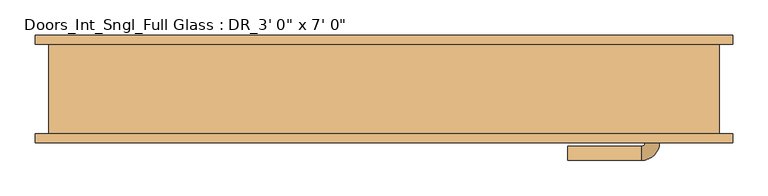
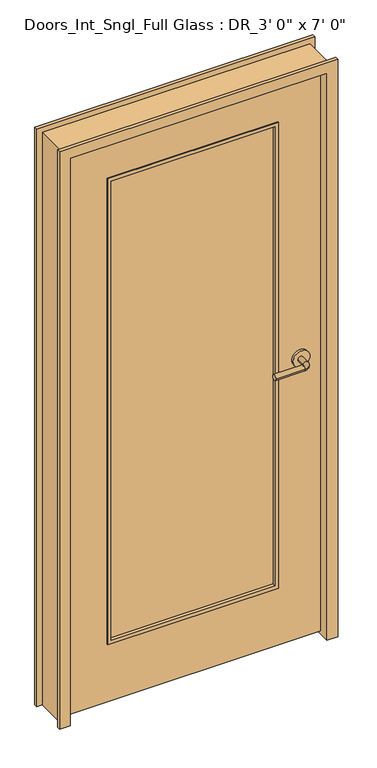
"""IFC4 building model written with IfcOpenShell, lengths in millimetres: door geometry."""

import ifcopenshell
import ifcopenshell.guid

model = None  # the IFC model being written
_history = None  # IfcOwnerHistory: only IFC2X3 demands one
_inside = {}  # id of a spatial element -> (the spatial element, [elements in it])
_under = {}  # id of a project, library or spatial element -> (it, [spatial elements below it])
_declared = {}  # id of a project -> (the project, [libraries it declares])
_typed = {}  # id of a type object -> (the type object, [elements of that type])
_made_of = {}  # id of a material, layer set ... -> (it, [elements and type objects made of it])


def new_model(schema):
    """Start an empty IFC model of exactly this schema.

    Asked for "IFC4X3", IfcOpenShell would pick the latest addendum, in which some entities
    have other attributes; the version numbers below select the first issue.
    IFC2X3 requires an IfcOwnerHistory on every rooted entity: one is made here for all.
    """
    global model, _history
    if schema == "IFC4X3":
        model = ifcopenshell.file(schema_version=(4, 3, 0, 0))
    else:
        model = ifcopenshell.file(schema=schema)
    _inside.clear()
    _under.clear()
    _declared.clear()
    _typed.clear()
    _made_of.clear()
    _history = None
    if model.schema == "IFC2X3":
        org = make("IfcOrganization", Name="unknown")
        user = make(
            "IfcPersonAndOrganization",
            ThePerson=make("IfcPerson", FamilyName="unknown"),
            TheOrganization=org,
        )
        app = make(
            "IfcApplication",
            ApplicationDeveloper=org,
            Version="unknown",
            ApplicationFullName="unknown",
            ApplicationIdentifier="unknown",
        )
        _history = make(
            "IfcOwnerHistory",
            OwningUser=user,
            OwningApplication=app,
            ChangeAction="ADDED",
            CreationDate=0,
        )
    return model


def make(cls, **values):
    """One entity of the class cls with the attributes given. An attribute that is None is left unset."""
    return model.create_entity(
        cls, **{name: value for name, value in values.items() if value is not None}
    )


def rooted(cls, **values):
    """An entity with a GlobalId (a new one), such as an element, a storey or a relation."""
    return make(cls, GlobalId=ifcopenshell.guid.new(), OwnerHistory=_history, **values)


def si_unit(unit_type, name, prefix=None):
    """IfcSIUnit, for example si_unit("LENGTHUNIT", "METRE", prefix="MILLI")."""
    return make("IfcSIUnit", UnitType=unit_type, Prefix=prefix, Name=name)


def assignment(units):
    """IfcUnitAssignment: the units of a project."""
    return None if units is None else make("IfcUnitAssignment", Units=units)


def point(xyz):
    """IfcCartesianPoint."""
    return None if xyz is None else make("IfcCartesianPoint", Coordinates=xyz)


def direction(xyz):
    """IfcDirection."""
    return None if xyz is None else make("IfcDirection", DirectionRatios=xyz)


def frame(location, z_axis=None, x_axis=None):
    """IfcAxis2Placement3D, a coordinate frame: its origin and axes. An axis left out is left unset."""
    return make(
        "IfcAxis2Placement3D",
        Location=point(location),
        Axis=direction(z_axis),
        RefDirection=direction(x_axis),
    )


def frame_2d(location, x_axis=None):
    """IfcAxis2Placement2D, a coordinate frame in the plane: its origin and x axis."""
    return make(
        "IfcAxis2Placement2D", Location=point(location), RefDirection=direction(x_axis)
    )


def origin():
    """The frame at (0, 0, 0) with its axes left unset."""
    return frame((0.0, 0.0, 0.0))


def place(relative_to, where):
    """IfcLocalPlacement: puts the frame where relative to a parent placement (None: the world)."""
    return make(
        "IfcLocalPlacement", PlacementRelTo=relative_to, RelativePlacement=where
    )


def context(
    kind, dimensions, precision=None, world=None, true_north=None, identifier=None
):
    """IfcGeometricRepresentationContext, for example the 3D "Model" context."""
    return make(
        "IfcGeometricRepresentationContext",
        ContextIdentifier=identifier,
        ContextType=kind,
        CoordinateSpaceDimension=dimensions,
        Precision=precision,
        WorldCoordinateSystem=world,
        TrueNorth=true_north,
    )


def project(units=None, contexts=None):
    """IfcProject with its units and contexts."""
    return rooted(
        "IfcProject",
        Name="project",
        RepresentationContexts=contexts,
        UnitsInContext=assignment(units),
    )


def spatial(cls, under=None, at=None, **own):
    """A site, building, storey or space (cls), placed at a placement, below another one or the project."""
    s = rooted(cls, ObjectPlacement=at, **own)
    if under is not None:
        _under.setdefault(under.id(), (under, []))[1].append(s)
    return s


def polyline(points):
    """IfcPolyline through the points."""
    return make("IfcPolyline", Points=[point(p) for p in points])


def circle_curve(where, radius):
    """IfcCircle in the frame where."""
    return make("IfcCircle", Position=where, Radius=radius)


def ellipse_curve(where, semi_axis1, semi_axis2):
    """IfcEllipse in the frame where."""
    return make(
        "IfcEllipse", Position=where, SemiAxis1=semi_axis1, SemiAxis2=semi_axis2
    )


def trimmed(basis, trim1, trim2, sense, master):
    """IfcTrimmedCurve: the piece of a basis curve between two trims."""
    return make(
        "IfcTrimmedCurve",
        BasisCurve=basis,
        Trim1=trim1,
        Trim2=trim2,
        SenseAgreement=sense,
        MasterRepresentation=master,
    )


def segment(curve, same_sense, transition):
    """IfcCompositeCurveSegment."""
    return make(
        "IfcCompositeCurveSegment",
        Transition=transition,
        SameSense=same_sense,
        ParentCurve=curve,
    )


def composite_curve(segments, self_intersect=None):
    """IfcCompositeCurve: segments joined end to end."""
    return make("IfcCompositeCurve", Segments=segments, SelfIntersect=self_intersect)


def outline(outer, holes=None, kind="AREA"):
    """IfcArbitraryClosedProfileDef: a profile drawn as a closed curve; with holes, ...WithVoids."""
    if holes is None:
        return make("IfcArbitraryClosedProfileDef", ProfileType=kind, OuterCurve=outer)
    return make(
        "IfcArbitraryProfileDefWithVoids",
        ProfileType=kind,
        OuterCurve=outer,
        InnerCurves=holes,
    )


def extrude(swept, where, along, depth):
    """IfcExtrudedAreaSolid: the profile swept, set in the frame where, extruded along a direction by depth."""
    return make(
        "IfcExtrudedAreaSolid",
        SweptArea=swept,
        Position=where,
        ExtrudedDirection=direction(along),
        Depth=depth,
    )


def faces_of(points, faces, orient=None, outer=None):
    """IfcFace entities. A face is a list of loops; a loop is a list of indices into points, from 0.

    orient and outer hold one flag for each loop. By default every Orientation is true, the
    first loop of a face is its IfcFaceOuterBound and the others are IfcFaceBound.
    """
    made = []
    for i, loops in enumerate(faces):
        bounds = []
        for j, loop in enumerate(loops):
            is_outer = j == 0 if outer is None else outer[i][j]
            bounds.append(
                make(
                    "IfcFaceOuterBound" if is_outer else "IfcFaceBound",
                    Bound=make("IfcPolyLoop", Polygon=[points[k] for k in loop]),
                    Orientation=True if orient is None else orient[i][j],
                )
            )
        made.append(make("IfcFace", Bounds=bounds))
    return made


def faceted_brep(points, faces, orient=None, outer=None, voids=None):
    """IfcFacetedBrep: a solid bounded by flat faces; with voids (closed shells), ...WithVoids."""
    shared = [point(p) for p in points]
    hull = make("IfcClosedShell", CfsFaces=faces_of(shared, faces, orient, outer))
    if voids is None:
        return make("IfcFacetedBrep", Outer=hull)
    return make(
        "IfcFacetedBrepWithVoids",
        Outer=hull,
        Voids=[
            make(cls, CfsFaces=faces_of(shared, fs, o, b)) for cls, fs, o, b in voids
        ],
    )


def shape(context_of_items, identifier, shape_type, items):
    """IfcShapeRepresentation: the items that make up one representation, for example the "Body"."""
    return make(
        "IfcShapeRepresentation",
        ContextOfItems=context_of_items,
        RepresentationIdentifier=identifier,
        RepresentationType=shape_type,
        Items=items,
    )


def source(mapping_origin, context_of_items, identifier, shape_type, items):
    """IfcRepresentationMap: a shape defined once, which mapped items show again and again."""
    return make(
        "IfcRepresentationMap",
        MappingOrigin=mapping_origin,
        MappedRepresentation=shape(context_of_items, identifier, shape_type, items),
    )


def transform(
    local_origin,
    x_axis=None,
    y_axis=None,
    z_axis=None,
    scale=None,
    scale2=None,
    scale3=None,
    uniform=True,
):
    """IfcCartesianTransformationOperator3D, or its non-uniform kind. x_axis, y_axis, z_axis: its Axis1, 2, 3."""
    if uniform:
        return make(
            "IfcCartesianTransformationOperator3D",
            Axis1=direction(x_axis),
            Axis2=direction(y_axis),
            LocalOrigin=point(local_origin),
            Scale=scale,
            Axis3=direction(z_axis),
        )
    return make(
        "IfcCartesianTransformationOperator3DnonUniform",
        Axis1=direction(x_axis),
        Axis2=direction(y_axis),
        LocalOrigin=point(local_origin),
        Scale=scale,
        Axis3=direction(z_axis),
        Scale2=scale2,
        Scale3=scale3,
    )


def mapped(mapping_source, mapping_target):
    """IfcMappedItem: shows the shape of a source again, moved by a transform."""
    return make(
        "IfcMappedItem", MappingSource=mapping_source, MappingTarget=mapping_target
    )


def made_of(thing, what):
    """Note that an element or type object is made of a material, layer set ...; save() writes the relation."""
    if what is not None:
        _made_of.setdefault(what.id(), (what, []))[1].append(thing)
    return thing


def element(
    cls,
    number,
    at=None,
    inside=None,
    cuts=None,
    type_object=None,
    material=None,
    context=None,
    identifier="Body",
    shape_type=None,
    held_by="IfcProductDefinitionShape",
    body=None,
    shapes=None,
    **own,
):
    """One element of the class cls, such as IfcWall. Its Tag is "e" and its number.

    at: its placement. inside: the storey or other place that contains it. cuts: it is an
    opening in that element (IfcRelVoidsElement). A single representation is given by context,
    identifier, shape_type and body (its items); several are given by shapes. held_by: the class
    of the entity that holds the representations. save() writes the other relations.
    """
    e = rooted(cls, Tag="e%d" % number, ObjectPlacement=at, **own)
    if body is not None:
        shapes = [shape(context, identifier, shape_type, body)]
    if shapes is not None:
        e.Representation = make(held_by, Representations=shapes)
    if inside is not None:
        _inside.setdefault(inside.id(), (inside, []))[1].append(e)
    if cuts is not None:
        rooted(
            "IfcRelVoidsElement", RelatingBuildingElement=cuts, RelatedOpeningElement=e
        )
    if type_object is not None:
        _typed.setdefault(type_object.id(), (type_object, []))[1].append(e)
    return made_of(e, material)


def aggregate(whole, parts):
    """IfcRelAggregates: a whole, such as a stair, and the parts it consists of."""
    return rooted("IfcRelAggregates", RelatingObject=whole, RelatedObjects=parts)


def save(model, path):
    """Write the relations noted so far, then the file.

    IfcRelAggregates (storeys below a building ...), IfcRelContainedInSpatialStructure (elements
    in a storey), IfcRelDefinesByType, IfcRelAssociatesMaterial and IfcRelDeclares: one each for
    every whole, place, type object, material and project.
    """
    for whole, parts in _under.values():
        aggregate(whole, parts)
    for where, things in _inside.values():
        rooted(
            "IfcRelContainedInSpatialStructure",
            RelatedElements=things,
            RelatingStructure=where,
        )
    for kind, things in _typed.values():
        rooted("IfcRelDefinesByType", RelatedObjects=things, RelatingType=kind)
    for what, things in _made_of.values():
        rooted("IfcRelAssociatesMaterial", RelatedObjects=things, RelatingMaterial=what)
    for by, libraries in _declared.values():
        rooted("IfcRelDeclares", RelatingContext=by, RelatedDefinitions=libraries)
    model.write(path)


def plane_surface(at):
    """IfcPlane: the flat surface through the origin of the frame at, square to its z axis."""
    return make("IfcPlane", Position=at)


def cylinder_surface(at, radius):
    """IfcCylindricalSurface: all points at the distance radius from the z axis of the frame at."""
    return make("IfcCylindricalSurface", Position=at, Radius=radius)


def revolved_surface(curve, axis_point, axis_direction):
    """IfcSurfaceOfRevolution: the curve turned about the line through axis_point along axis_direction."""
    return make(
        "IfcSurfaceOfRevolution",
        SweptCurve=make("IfcArbitraryOpenProfileDef", ProfileType="CURVE", Curve=curve),
        AxisPosition=make("IfcAxis1Placement", Location=point(axis_point), Axis=direction(axis_direction)),
    )


def advanced_brep(points, edges, surfaces, faces):
    """IfcAdvancedBrep: a solid bounded by faces that lie on surfaces and meet in shared edges.

    An edge is (start, end): straight between two places in points (the first is 0);
    or (start, end, curve); or (start, end, curve, False) where it runs against its curve.
    A face is (place in surfaces, loops), or (place, loops, False) where it looks against
    its surface's normal. A loop lists edges by number (the first is 1), with a minus sign
    where the edge is run from its end to its start. The first loop is the outer one.
    """
    corners = [point(p) for p in points]
    vertices = [make("IfcVertexPoint", VertexGeometry=c) for c in corners]
    made = []
    for start, end, *more in edges:
        made.append(
            make(
                "IfcEdgeCurve",
                EdgeStart=vertices[start],
                EdgeEnd=vertices[end],
                EdgeGeometry=more[0] if more else make("IfcPolyline", Points=[corners[start], corners[end]]),
                SameSense=more[1] if len(more) > 1 else True,
            )
        )
    hull = []
    for where, loops, *sense in faces:
        bounds = []
        for j, loop in enumerate(loops):
            ring = [make("IfcOrientedEdge", EdgeElement=made[abs(k) - 1], Orientation=k > 0) for k in loop]
            bounds.append(
                make(
                    "IfcFaceOuterBound" if j == 0 else "IfcFaceBound",
                    Bound=make("IfcEdgeLoop", EdgeList=ring),
                    Orientation=True,
                )
            )
        hull.append(make("IfcAdvancedFace", Bounds=bounds, FaceSurface=surfaces[where], SameSense=sense[0] if sense else True))
    return make("IfcAdvancedBrep", Outer=make("IfcClosedShell", CfsFaces=hull))


def door_0bd24f86(model_context):
    return source(origin(), model_context, "Body", "SolidModel", [
        advanced_brep(
        [(391.0, -46.1, 1066.8), (371.0, -46.1, 1066.8), (391.0, -76.1, 1066.8), (371.0, -76.1, 1066.8), (366.0, -81.1, 1066.8), (366.0, -101.1, 1066.8), (261.0, -101.1, 1066.8), (261.0, -81.1, 1066.8)],
        [
            (0, 1, circle_curve(frame((381.0, -46.1, 1066.8), z_axis=(0.0, 1.0, 0.0), x_axis=(-0.9999999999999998, 0.0, 0.0)), 10.0)),
            (1, 0, circle_curve(frame((381.0, -46.1, 1066.8), z_axis=(0.0, 1.0, 0.0), x_axis=(-0.9999999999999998, 0.0, 0.0)), 10.0)),
            (0, 2),
            (2, 3, circle_curve(frame((381.0, -76.1, 1066.8), z_axis=(0.0, 1.0, 0.0), x_axis=(-0.9999999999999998, 0.0, 0.0)), 10.0)),
            (3, 1),
            (3, 2, circle_curve(frame((381.0, -76.1, 1066.8), z_axis=(0.0, 1.0, 0.0), x_axis=(-0.9999999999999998, 0.0, 0.0)), 10.0)),
            (4, 3, circle_curve(frame((366.0, -76.1, 1066.8), z_axis=(0.0, 0.0, 1.0), x_axis=(0.9999999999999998, 0.0, 0.0)), 5.0)),
            (2, 5, circle_curve(frame((366.0, -76.1, 1066.8), z_axis=(0.0, 0.0, -1.0), x_axis=(0.9999999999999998, 0.0, 0.0)), 25.0)),
            (5, 4, circle_curve(frame((366.0, -91.1, 1066.8), z_axis=(0.9999999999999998, 0.0, 0.0), x_axis=(0.0, 0.9999999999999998, 0.0)), 10.0)),
            (4, 5, circle_curve(frame((366.0, -91.1, 1066.8), z_axis=(0.9999999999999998, 0.0, 0.0), x_axis=(0.0, 0.9999999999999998, 0.0)), 10.0)),
            (6, 7, circle_curve(frame((261.0, -91.1, 1066.8), z_axis=(-1.0, 0.0, 0.0), x_axis=(0.0, 0.9999999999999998, 0.0)), 10.0)),
            (7, 6, circle_curve(frame((261.0, -91.1, 1066.8), z_axis=(-1.0, 0.0, 0.0), x_axis=(0.0, 0.9999999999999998, 0.0)), 10.0)),
            (5, 6),
            (7, 4),
        ],
        [
            plane_surface(frame((381.0, -46.1, 1066.8), z_axis=(0.0, 1.0, 0.0), x_axis=(0.0, 0.0, 1.0))),
            cylinder_surface(frame((381.0, -46.1, 1066.8), z_axis=(0.0, 0.9999999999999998, 0.0), x_axis=(-0.9999999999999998, 0.0, 0.0)), 10.0),
            revolved_surface(trimmed(ellipse_curve(frame((381.0, -76.1, 1066.8), z_axis=(0.0, 0.9999999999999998, 0.0), x_axis=(-0.9999999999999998, 0.0, 0.0)), 10.0, 10.0), [point((391.0, -76.1, 1066.8))], [point((371.0, -76.1, 1066.8))], True, "CARTESIAN"), (366.0, -76.1, 1066.8), (0.0, 0.0, -1.0)),
            revolved_surface(trimmed(ellipse_curve(frame((381.0, -76.1, 1066.8), z_axis=(0.0, 0.9999999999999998, 0.0), x_axis=(-0.9999999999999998, 0.0, 0.0)), 10.0, 10.0), [point((371.0, -76.1, 1066.8))], [point((391.0, -76.1, 1066.8))], True, "CARTESIAN"), (366.0, -76.1, 1066.8), (0.0, 0.0, -1.0)),
            plane_surface(frame((261.0, -91.1, 1066.8), z_axis=(-1.0, 0.0, 0.0), x_axis=(0.0, 0.0, 1.0))),
            cylinder_surface(frame((366.0, -91.1, 1066.8), z_axis=(0.9999999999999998, 0.0, 0.0), x_axis=(0.0, 0.9999999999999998, 0.0)), 10.0),
        ],
        [
            (0, [[1, 2]]),
            (1, [[-1, 3, 4, 5]]),
            (1, [[-2, -5, 6, -3]]),
            (2, [[7, -4, 8, 9]]),
            (3, [[-8, -6, -7, 10]]),
            (4, [[11, 12]]),
            (5, [[-9, 13, -12, 14]]),
            (5, [[-10, -14, -11, -13]]),
        ],
    ),
        extrude(outline(composite_curve([segment(trimmed(circle_curve(frame_2d((1066.8, 383.5)), 30.0), [point((1066.8, 413.5))], [point((1066.8, 353.5))], False, "CARTESIAN"), True, "CONTINUOUS"), segment(trimmed(circle_curve(frame_2d((1066.8, 383.5)), 30.0), [point((1066.8, 353.5))], [point((1066.8, 413.5))], False, "CARTESIAN"), True, "CONTINUOUS")], self_intersect=False)), frame((0.0, -46.1, 0.0), z_axis=(0.0, 1.0, 0.0), x_axis=(0.0, 0.0, 1.0)), (0.0, 0.0, 1.0), 8.0),
        advanced_brep(
        [(391.0, 14.35, 1066.8), (371.0, 14.35, 1066.8), (371.0, 44.35, 1066.8), (391.0, 44.35, 1066.8), (366.0, 49.35, 1066.8), (366.0, 69.35, 1066.8), (261.0, 69.35, 1066.8), (261.0, 49.35, 1066.8)],
        [
            (0, 1, circle_curve(frame((381.0, 14.35, 1066.8), z_axis=(0.0, -1.0, 0.0), x_axis=(-0.9999999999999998, 0.0, 0.0)), 10.0)),
            (1, 0, circle_curve(frame((381.0, 14.35, 1066.8), z_axis=(0.0, -1.0, 0.0), x_axis=(-0.9999999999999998, 0.0, 0.0)), 10.0)),
            (1, 2),
            (2, 3, circle_curve(frame((381.0, 44.35, 1066.8), z_axis=(0.0, -1.0, 0.0), x_axis=(-0.9999999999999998, 0.0, 0.0)), 10.0)),
            (3, 0),
            (3, 2, circle_curve(frame((381.0, 44.35, 1066.8), z_axis=(0.0, -1.0, 0.0), x_axis=(-0.9999999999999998, 0.0, 0.0)), 10.0)),
            (4, 5, circle_curve(frame((366.0, 59.35, 1066.8), z_axis=(0.9999999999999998, 0.0, 0.0), x_axis=(0.0, -0.9999999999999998, 0.0)), 10.0)),
            (5, 3, circle_curve(frame((366.0, 44.35, 1066.8), z_axis=(0.0, 0.0, -1.0), x_axis=(0.9999999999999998, 0.0, 0.0)), 25.0)),
            (2, 4, circle_curve(frame((366.0, 44.35, 1066.8), z_axis=(0.0, 0.0, 1.0), x_axis=(0.9999999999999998, 0.0, 0.0)), 5.0)),
            (5, 4, circle_curve(frame((366.0, 59.35, 1066.8), z_axis=(0.9999999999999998, 0.0, 0.0), x_axis=(0.0, -0.9999999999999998, 0.0)), 10.0)),
            (6, 7, circle_curve(frame((261.0, 59.35, 1066.8), z_axis=(-1.0, 0.0, 0.0), x_axis=(0.0, -0.9999999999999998, 0.0)), 10.0)),
            (7, 6, circle_curve(frame((261.0, 59.35, 1066.8), z_axis=(-1.0, 0.0, 0.0), x_axis=(0.0, -0.9999999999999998, 0.0)), 10.0)),
            (4, 7),
            (6, 5),
        ],
        [
            plane_surface(frame((381.0, 14.35, 1066.8), z_axis=(0.0, -1.0, 0.0), x_axis=(0.0, 0.0, 1.0))),
            cylinder_surface(frame((381.0, 14.35, 1066.8), z_axis=(0.0, -0.9999999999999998, 0.0), x_axis=(-0.9999999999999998, 0.0, 0.0)), 10.0),
            revolved_surface(trimmed(ellipse_curve(frame((381.0, 44.35, 1066.8), z_axis=(0.0, 0.9999999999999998, 0.0), x_axis=(-0.9999999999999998, 0.0, 0.0)), 10.0, 10.0), [point((391.0, 44.35, 1066.8))], [point((371.0, 44.35, 1066.8))], True, "CARTESIAN"), (366.0, 44.35, 1066.8), (0.0, 0.0, -1.0)),
            revolved_surface(trimmed(ellipse_curve(frame((381.0, 44.35, 1066.8), z_axis=(0.0, 0.9999999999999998, 0.0), x_axis=(-0.9999999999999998, 0.0, 0.0)), 10.0, 10.0), [point((371.0, 44.35, 1066.8))], [point((391.0, 44.35, 1066.8))], True, "CARTESIAN"), (366.0, 44.35, 1066.8), (0.0, 0.0, -1.0)),
            plane_surface(frame((261.0, 59.35, 1066.8), z_axis=(-1.0, 0.0, 0.0), x_axis=(0.0, 0.0, 1.0))),
            cylinder_surface(frame((366.0, 59.35, 1066.8), z_axis=(0.9999999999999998, 0.0, 0.0), x_axis=(0.0, -0.9999999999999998, 0.0)), 10.0),
        ],
        [
            (0, [[1, 2]]),
            (1, [[3, 4, 5, -2]]),
            (1, [[-5, 6, -3, -1]]),
            (2, [[7, 8, -4, 9]]),
            (3, [[10, -9, -6, -8]]),
            (4, [[11, 12]]),
            (5, [[13, -11, 14, -7]]),
            (5, [[-14, -12, -13, -10]]),
        ],
    ),
        extrude(outline(composite_curve([segment(trimmed(circle_curve(frame_2d((1066.8, 383.5)), 30.0), [point((1066.8, 413.5))], [point((1066.8, 353.5))], False, "CARTESIAN"), True, "CONTINUOUS"), segment(trimmed(circle_curve(frame_2d((1066.8, 383.5)), 30.0), [point((1066.8, 353.5))], [point((1066.8, 413.5))], False, "CARTESIAN"), True, "CONTINUOUS")], self_intersect=False)), frame((0.0, 6.35, 0.0), z_axis=(0.0, 1.0, 0.0), x_axis=(0.0, 0.0, 1.0)), (0.0, 0.0, 1.0), 8.0),
        extrude(outline(polyline([(292.1, -3.175), (292.1, -28.575), (-292.1, -28.575), (-292.1, -3.175), (292.1, -3.175)])), frame((0.0, 0.0, 241.3), z_axis=(0.0, 0.0, 1.0), x_axis=(1.0, 0.0, 0.0)), (0.0, 0.0, 1.0), 1727.2),
        extrude(outline(polyline([(228.6, -304.8), (228.6, 304.8), (1981.2, 304.8), (1981.2, -304.8), (228.6, -304.8)]), holes=[polyline([(241.3, -292.1), (1968.5, -292.1), (1968.5, 292.1), (241.3, 292.1), (241.3, -292.1)])]), frame((0.0, -41.275, 0.0), z_axis=(0.0, 1.0, 0.0), x_axis=(0.0, 0.0, 1.0)), (0.0, 0.0, 1.0), 50.8),
        extrude(outline(polyline([(2133.6, 457.2), (2133.6, -457.2), (12.7, -457.2), (12.7, 457.2), (2133.6, 457.2)]), holes=[polyline([(228.6, -304.8), (1981.2, -304.8), (1981.2, 304.8), (228.6, 304.8), (228.6, -304.8)])]), frame((0.0, -38.1, 0.0), z_axis=(0.0, 1.0, 0.0), x_axis=(0.0, 0.0, 1.0)), (0.0, 0.0, 1.0), 44.45),
        faceted_brep([(-457.2, 76.2, 0.0), (-457.2, -76.2, 0.0), (-495.3, -76.2, 0.0), (-495.3, -63.5, 0.0), (-476.25, -63.5, 0.0), (-476.25, 63.5, 0.0), (-495.3, 63.5, 0.0), (-495.3, 76.2, 0.0), (-495.3, 76.2, 2171.7), (495.3, 76.2, 2171.7), (495.3, 76.2, 0.0), (457.2, 76.2, 0.0), (457.2, 76.2, 2133.6), (-457.2, 76.2, 2133.6), (-495.3, 63.5, 2171.7), (-476.25, 63.5, 2152.65), (476.25, 63.5, 2152.65), (476.25, 63.5, 0.0), (495.3, 63.5, 0.0), (495.3, 63.5, 2171.7), (-476.25, -63.5, 2152.65), (-495.3, -63.5, 2171.7), (495.3, -63.5, 2171.7), (495.3, -63.5, 0.0), (476.25, -63.5, 0.0), (476.25, -63.5, 2152.65), (-495.3, -76.2, 2171.7), (-457.2, -76.2, 2133.6), (457.2, -76.2, 2133.6), (457.2, -76.2, 0.0), (495.3, -76.2, 0.0), (495.3, -76.2, 2171.7)], [[[0, 1, 2, 3, 4, 5, 6, 7]], [[7, 8, 9, 10, 11, 12, 13, 0]], [[6, 14, 8, 7]], [[5, 15, 16, 17, 18, 19, 14, 6]], [[4, 20, 15, 5]], [[3, 21, 22, 23, 24, 25, 20, 4]], [[2, 26, 21, 3]], [[1, 27, 28, 29, 30, 31, 26, 2]], [[0, 13, 27, 1]], [[12, 11, 29, 28]], [[11, 10, 18, 17, 24, 23, 30, 29]], [[19, 18, 10, 9]], [[31, 30, 23, 22]], [[25, 24, 17, 16]], [[20, 25, 16, 15]], [[13, 12, 28, 27]], [[14, 19, 9, 8]], [[26, 31, 22, 21]]]),
    ])


if __name__ == "__main__":
    model = new_model("IFC4")
    model_context = context("Model", 3, world=origin())
    ifc_project = project(units=[si_unit("LENGTHUNIT", "METRE", prefix="MILLI")], contexts=[model_context])
    site = spatial("IfcSite", under=ifc_project)
    building = spatial("IfcBuilding", under=site)
    placement = place(None, origin())
    door_shape = door_0bd24f86(model_context)
    element("IfcDoor", 1, ObjectType="Doors_Int_Sngl_Full Glass : DR_3' 0\" x 7' 0\"", at=placement, inside=building, context=model_context, shape_type="MappedRepresentation", body=[
        mapped(door_shape, transform((0.0, 0.0, 0.0), x_axis=(1.0, 0.0, 0.0), y_axis=(0.0, 1.0, 0.0), z_axis=(0.0, 0.0, 1.0))),
    ])
    save(model, "model.ifc")
